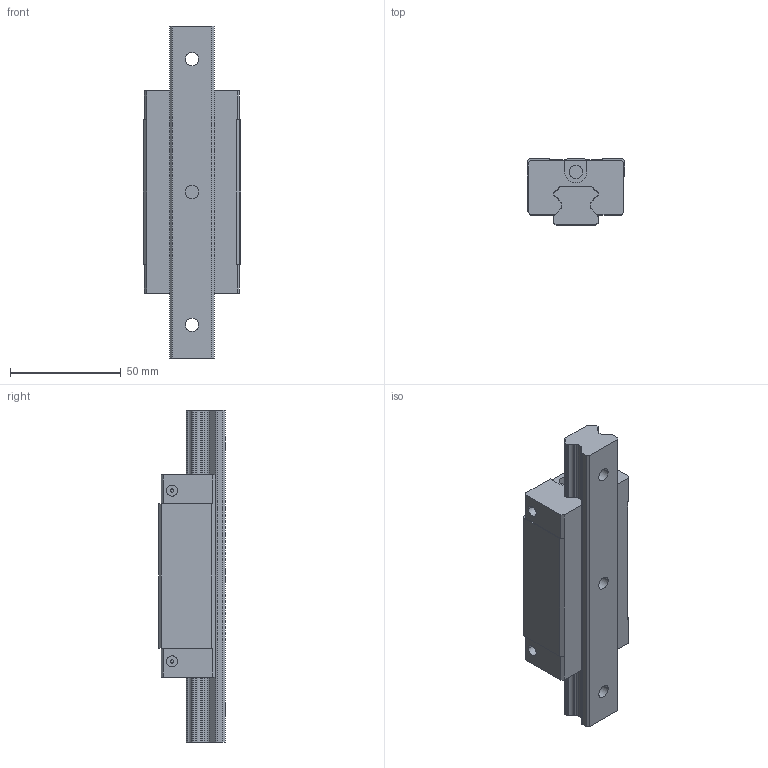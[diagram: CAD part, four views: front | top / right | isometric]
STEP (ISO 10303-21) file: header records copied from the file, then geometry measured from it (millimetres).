
FILE_DESCRIPTION((''),'2;1');
FILE_NAME('QHH20HA_ASM','2008-07-11T',('tzuyu'),(''),'PRO/ENGINEER BY PARAMETRIC TECHNOLOGY CORPORATION, 2004360','PRO/ENGINEER BY PARAMETRIC TECHNOLOGY CORPORATION, 2004360','');
FILE_SCHEMA(('CONFIG_CONTROL_DESIGN'));
Length unit declared in the file: millimetre
Products named in the file (5): QHH20HA_3; PRT0004; ASM0006_ASM; QHH20H_ASM_3_ASM; QHH20HA_ASM
Assembly tree (4 placements, depth 4):
  QHH20HA_ASM
    QHH20H_ASM_3_ASM
      ASM0006_ASM
        QHH20HA_3
        PRT0004
Bounding box: 43.95 x 30 x 150 mm (x, y, z)
Volume: 120498.9 mm3; surface area: 31166.3 mm2
Topology: 2 solids, 2 shells, 189 faces, 500 edges, 332 vertices
Faces by surface type: plane 101, cylinder 88
Entity records: 6065 total; most frequent: DIRECTION 1078, CARTESIAN_POINT 1033, ORIENTED_EDGE 1000, EDGE_CURVE 500, AXIS2_PLACEMENT_3D 377, VERTEX_POINT 332, VECTOR 324, LINE 324
